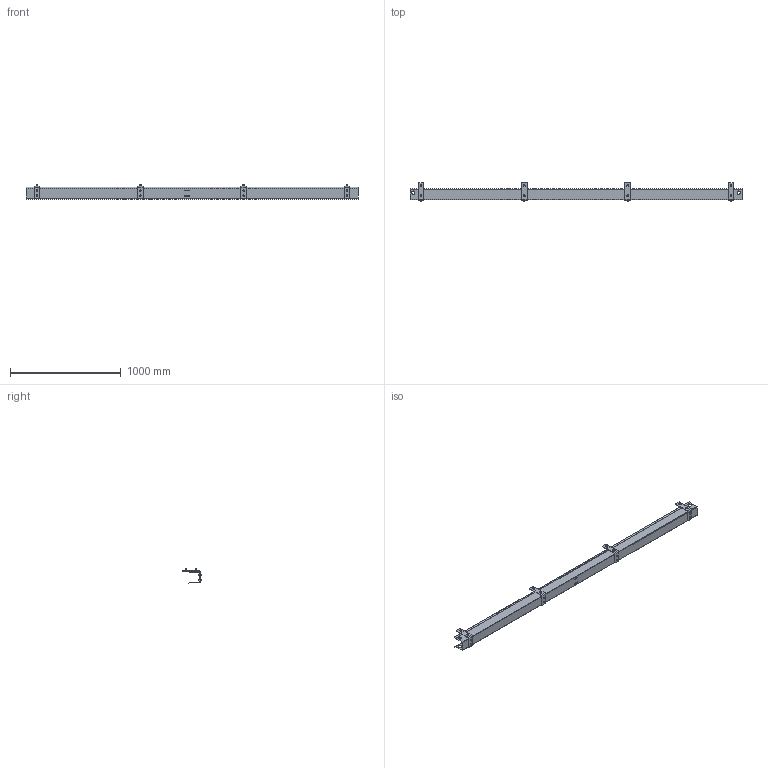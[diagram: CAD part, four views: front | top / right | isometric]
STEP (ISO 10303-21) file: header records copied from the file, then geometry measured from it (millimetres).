
FILE_DESCRIPTION (( 'STEP AP203' ), '1' );
FILE_NAME ('900.060.100.3000.STEP', '2018-03-09T12:40:52', ( '' ), ( '' ), 'SwSTEP 2.0', 'SolidWorks 2016', '' );
FILE_SCHEMA (( 'CONFIG_CONTROL_DESIGN' ));
Length unit declared in the file: millimetre
Products named in the file (9): 900.060.100.102; 900.060.1000.3000-L; 900.060.100.3000; 084.301.000 VITI ALUSIC_084.301.003; VITI TESTA BOMBATA ISO 730 INOX_M6x20 ISO 7380 INOX; 084.302.000 DADI ALUSIC 13x13-1_084.302.009; DADI ESAGONALI AUTOBLOCCANTI UNI 7473_M6 UNI 7473; RONDELLE UNI 6592_6.4x12.5 UNI 6592; RONDELLE UNI 6592_8.4x17 UNI 6592
Assembly tree (61 placements, depth 2):
  900.060.100.3000
    900.060.100.102  x4
    RONDELLE UNI 6592_8.4x17 UNI 6592  x8
    084.301.000 VITI ALUSIC_084.301.003  x8
    084.302.000 DADI ALUSIC 13x13-1_084.302.009  x8
    VITI TESTA BOMBATA ISO 730 INOX_M6x20 ISO 7380 INOX  x8
    RONDELLE UNI 6592_6.4x12.5 UNI 6592  x16
    DADI ESAGONALI AUTOBLOCCANTI UNI 7473_M6 UNI 7473  x8
    900.060.1000.3000-L
Bounding box: 3000 x 169.4 x 135.07 mm (x, y, z)
Volume: 1577682.2 mm3; surface area: 1891601 mm2
Topology: 69 solids, 69 shells, 1138 faces, 2584 edges, 1616 vertices
Faces by surface type: plane 566, cylinder 348, cone 144, torus 80
Entity records: 11039 total; most frequent: CARTESIAN_POINT 1652, DIRECTION 1566, ORIENTED_EDGE 1368, EDGE_CURVE 684, AXIS2_PLACEMENT_3D 582, VERTEX_POINT 432, LINE 402, VECTOR 402
